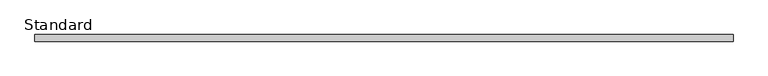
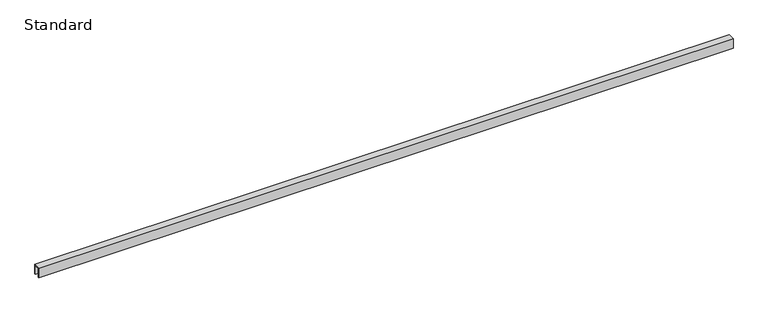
"""IFC4 building model written with IfcOpenShell, lengths in millimetres: furniture geometry, X_Partition-Channel-Duracube-Ceiling : Standard."""

from ifc_helpers import new_model, si_unit, frame, origin, place, context, project, spatial, polyline, outline, extrude, source, transform, mapped, element, save


def standard_a54649d3(model_context):
    return source(origin(), model_context, "Body", "SweptSolid", [
        extrude(outline(polyline([(0.0, 0.0), (-2.0, 0.0), (-2.0, 24.0), (-15.0, 24.0), (-15.0, 0.0), (-17.0, 0.0), (-17.0, 26.0), (0.0, 26.0), (0.0, 0.0)])), frame((-851.2996736, 0.0, 0.0), z_axis=(1.0, 0.0, 0.0), x_axis=(0.0, 1.0, 0.0)), (0.0, 0.0, 1.0), 1792.0),
    ])


if __name__ == "__main__":
    model = new_model("IFC4")
    model_context = context("Model", 3, world=origin())
    ifc_project = project(units=[si_unit("LENGTHUNIT", "METRE", prefix="MILLI")], contexts=[model_context])
    site = spatial("IfcSite", under=ifc_project)
    building = spatial("IfcBuilding", under=site)
    placement = place(None, origin())
    standard_shape = standard_a54649d3(model_context)
    element("IfcFurniture", 1, ObjectType="X_Partition-Channel-Duracube-Ceiling : Standard", at=placement, inside=building, context=model_context, shape_type="MappedRepresentation", body=[
        mapped(standard_shape, transform((0.0, 0.0, 0.0), x_axis=(1.0, 0.0, 0.0), y_axis=(0.0, 1.0, 0.0), z_axis=(0.0, 0.0, 1.0))),
    ])
    save(model, "model.ifc")
